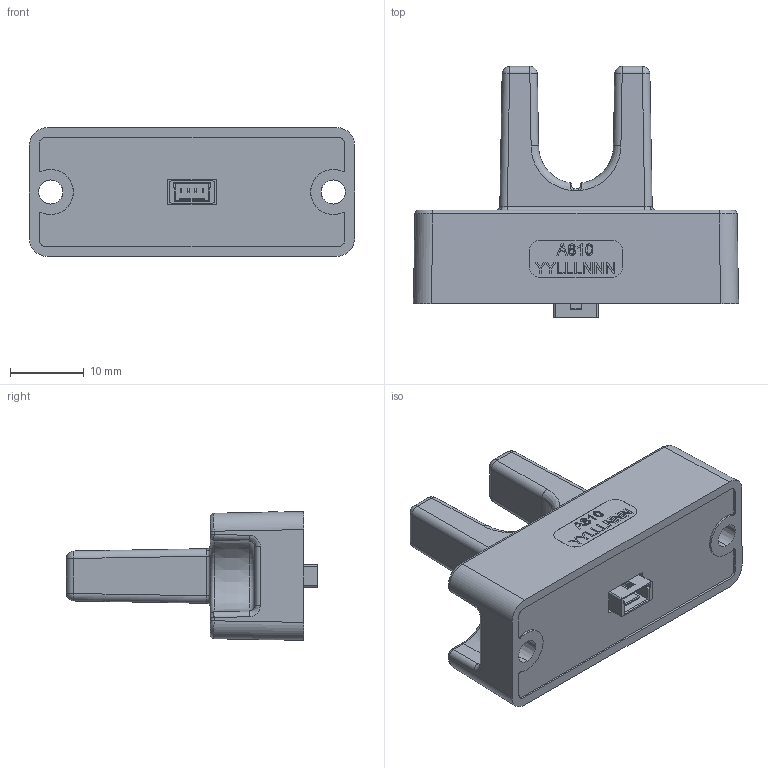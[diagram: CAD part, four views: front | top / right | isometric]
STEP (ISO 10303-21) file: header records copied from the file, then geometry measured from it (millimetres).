
FILE_DESCRIPTION (( 'STEP AP214' ), '1' );
FILE_NAME ('SMD8163-A810_C.STEP', '2021-03-02T20:15:41', ( '' ), ( '' ), 'SwSTEP 2.0', 'SolidWorks 2020', '' );
FILE_SCHEMA (( 'AUTOMOTIVE_DESIGN' ));
Length unit declared in the file: inch
Products named in the file (4): SMD8163-A810_C; Molex_5013310407; A810 701-8663_C; SMD8164-A810_C
Assembly tree (3 placements, depth 2):
  SMD8163-A810_C
    SMD8164-A810_C
    A810 701-8663_C
    Molex_5013310407
Bounding box: 44.16 x 34.09 x 17.47 mm (x, y, z)
Volume: 10217.4 mm3; surface area: 4490 mm2
Topology: 3 solids, 3 shells, 489 faces, 1280 edges, 820 vertices
Faces by surface type: plane 318, cylinder 76, bspline 71, cone 12, sphere 8, torus 4
Entity records: 19014 total; most frequent: CARTESIAN_POINT 5713, ORIENTED_EDGE 2544, DIRECTION 2103, EDGE_CURVE 1272, VECTOR 949, LINE 949, VERTEX_POINT 820, AXIS2_PLACEMENT_3D 577
